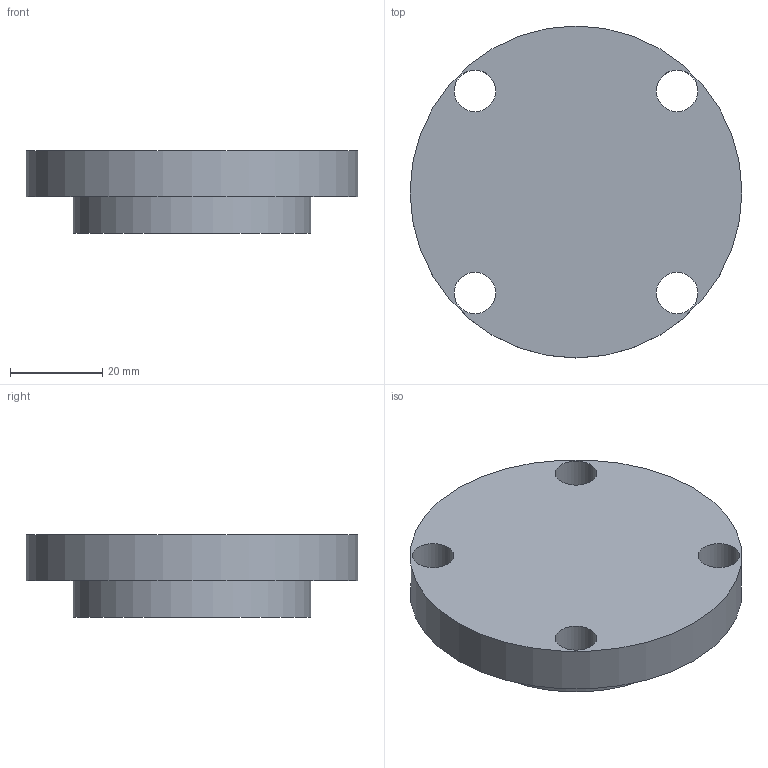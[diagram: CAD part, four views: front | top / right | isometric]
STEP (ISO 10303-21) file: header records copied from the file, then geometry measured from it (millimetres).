
FILE_DESCRIPTION(('Open CASCADE Model'),'2;1');
FILE_NAME('Open CASCADE Shape Model','2026-09-15T22:58:05',('Author'),( 'Open CASCADE'),'Open CASCADE STEP processor 7.9','build123d', 'Unknown');
FILE_SCHEMA(('AUTOMOTIVE_DESIGN { 1 0 10303 214 1 1 1 1 }'));
Length unit declared in the file: millimetre
Products named in the file (1): COMPOUND
Bounding box: 72 x 72 x 18 mm (x, y, z)
Volume: 54899.7 mm3; surface area: 12323.8 mm2
Topology: 1 solids, 1 shells, 9 faces, 18 edges, 12 vertices
Faces by surface type: cylinder 6, plane 3
Full cylindrical faces by diameter (mm): 9 x4, 51.6 x1, 72 x1
Entity records: 504 total; most frequent: DIRECTION 86, CARTESIAN_POINT 76, ORIENTED_EDGE 36, PCURVE 36, DEFINITIONAL_REPRESENTATION 36, LINE 30, VECTOR 30, CIRCLE 24
